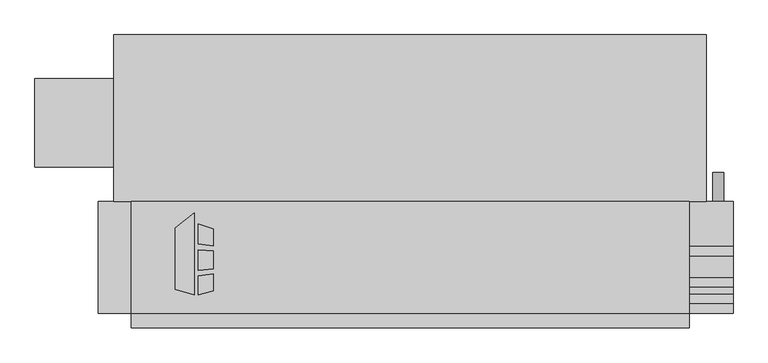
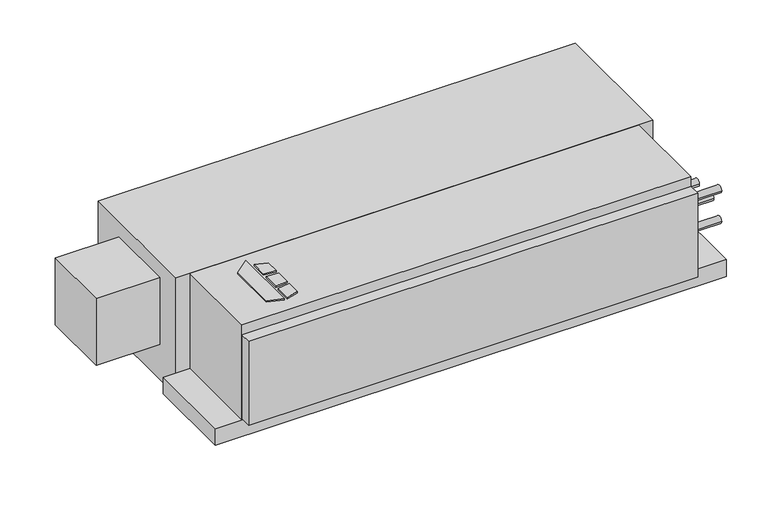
"""IFC4 building model written with IfcOpenShell, lengths in millimetres: proxy geometry, Concealed_Horizontal_Fan_Coil_Unit_With_Plenum_-_CPY_-_IEC_-_4-Pipe_RH_2022 : Size 08 - 277v/60Hz/1Ph - 4/1 Coil."""

from ifc_helpers import new_model, si_unit, point, frame, frame_2d, origin, origin_with_axes, place, context, project, spatial, polyline, circle_curve, trimmed, segment, composite_curve, outline, extrude, source, transform, mapped, element, save


def mechanical_equipment_fb6a3015(model_context):
    return source(origin(), model_context, "Body", "SweptSolid", [
        extrude(outline(polyline([(-254.0, -186.6953476), (-221.4417033, -161.2580184), (-221.4417033, -303.2125), (-254.0, -292.9929201), (-254.0, -186.6953476)])), origin_with_axes(), (0.0, 0.0, 1.0), 3.175),
        extrude(outline(polyline([(-214.6833703, -214.567352), (-214.6833703, -180.0874379), (-188.6019761, -188.2740115), (-188.6019761, -217.7697446), (-214.6833703, -214.567352)])), origin_with_axes(), (0.0, 0.0, 1.0), 3.175),
        extrude(outline(polyline([(-188.6019761, -296.2240115), (-214.6833703, -303.2125), (-214.6833703, -269.9911996), (-188.6019761, -266.4493564), (-188.6019761, -296.2240115)])), origin_with_axes(), (0.0, 0.0, 1.0), 3.175),
        extrude(outline(polyline([(-188.6019761, -226.8513277), (-188.6019761, -258.101483), (-214.6833703, -260.842748), (-214.6833703, -224.9850378), (-188.6019761, -226.8513277)])), origin_with_axes(), (0.0, 0.0, 1.0), 3.175),
        extrude(outline(composite_curve([segment(trimmed(circle_curve(frame_2d((-241.3, 685.8)), 9.525), [point((-241.3, 676.275))], [point((-241.3, 695.325))], False, "CARTESIAN"), True, "CONTINUOUS"), segment(trimmed(circle_curve(frame_2d((-241.3, 685.8)), 9.525), [point((-241.3, 695.325))], [point((-241.3, 676.275))], False, "CARTESIAN"), True, "CONTINUOUS")], self_intersect=False)), frame((0.0, -141.2875, 0.0), z_axis=(0.0, 1.0, 0.0), x_axis=(0.0, 0.0, 1.0)), (0.0, 0.0, 1.0), 50.8),
        extrude(outline(composite_curve([segment(trimmed(circle_curve(frame_2d((-309.5625, -69.85)), 7.9375), [point((-317.5, -69.85))], [point((-301.625, -69.85))], False, "CARTESIAN"), True, "CONTINUOUS"), segment(trimmed(circle_curve(frame_2d((-309.5625, -69.85)), 7.9375), [point((-301.625, -69.85))], [point((-317.5, -69.85))], False, "CARTESIAN"), True, "CONTINUOUS")], self_intersect=False)), frame((635.0, 0.0, 0.0), z_axis=(1.0, 0.0, 0.0), x_axis=(0.0, 1.0, 0.0)), (0.0, 0.0, 1.0), 76.2),
        extrude(outline(composite_curve([segment(trimmed(circle_curve(frame_2d((-309.5625, -139.7)), 7.9375), [point((-317.5, -139.7))], [point((-301.625, -139.7))], False, "CARTESIAN"), True, "CONTINUOUS"), segment(trimmed(circle_curve(frame_2d((-309.5625, -139.7)), 7.9375), [point((-301.625, -139.7))], [point((-317.5, -139.7))], False, "CARTESIAN"), True, "CONTINUOUS")], self_intersect=False)), frame((635.0, 0.0, 0.0), z_axis=(1.0, 0.0, 0.0), x_axis=(0.0, 1.0, 0.0)), (0.0, 0.0, 1.0), 76.2),
        extrude(outline(composite_curve([segment(trimmed(circle_curve(frame_2d((-227.0125, -104.775)), 7.9375), [point((-234.95, -104.775))], [point((-219.075, -104.775))], False, "CARTESIAN"), True, "CONTINUOUS"), segment(trimmed(circle_curve(frame_2d((-227.0125, -104.775)), 7.9375), [point((-219.075, -104.775))], [point((-234.95, -104.775))], False, "CARTESIAN"), True, "CONTINUOUS")], self_intersect=False)), frame((635.0, 0.0, 0.0), z_axis=(1.0, 0.0, 0.0), x_axis=(0.0, 1.0, 0.0)), (0.0, 0.0, 1.0), 76.2),
        extrude(outline(composite_curve([segment(trimmed(circle_curve(frame_2d((-280.9875, -104.775)), 7.9375), [point((-288.925, -104.775))], [point((-273.05, -104.775))], False, "CARTESIAN"), True, "CONTINUOUS"), segment(trimmed(circle_curve(frame_2d((-280.9875, -104.775)), 7.9375), [point((-273.05, -104.775))], [point((-288.925, -104.775))], False, "CARTESIAN"), True, "CONTINUOUS")], self_intersect=False)), frame((635.0, 0.0, 0.0), z_axis=(1.0, 0.0, 0.0), x_axis=(0.0, 1.0, 0.0)), (0.0, 0.0, 1.0), 76.2),
        extrude(outline(polyline([(635.0, -334.9625), (635.0, -360.3625), (-330.2, -360.3625), (-330.2, -334.9625), (635.0, -334.9625)])), frame((0.0, 0.0, -212.725), z_axis=(0.0, 0.0, 1.0), x_axis=(1.0, 0.0, 0.0)), (0.0, 0.0, 1.0), 190.5),
        extrude(outline(polyline([(635.0, -334.9625), (-330.2, -334.9625), (-330.2, -141.2875), (635.0, -141.2875), (635.0, -334.9625)])), frame((0.0, 0.0, -215.9), z_axis=(0.0, 0.0, 1.0), x_axis=(1.0, 0.0, 0.0)), (0.0, 0.0, 1.0), 215.9),
        extrude(outline(polyline([(711.2, -141.2875), (711.2, -334.9625), (-387.35, -334.9625), (-387.35, -141.2875), (711.2, -141.2875)])), frame((0.0, 0.0, -254.0), z_axis=(0.0, 0.0, 1.0), x_axis=(1.0, 0.0, 0.0)), (0.0, 0.0, 1.0), 38.1),
        extrude(outline(polyline([(-496.8875, -80.9625), (-496.8875, 71.4375), (-360.3625, 71.4375), (-360.3625, -80.9625), (-496.8875, -80.9625)])), frame((0.0, 0.0, -187.325), z_axis=(0.0, 0.0, 1.0), x_axis=(1.0, 0.0, 0.0)), (0.0, 0.0, 1.0), 152.4),
        extrude(outline(polyline([(-360.3625, 147.6375), (665.1625, 147.6375), (665.1625, -141.2875), (-360.3625, -141.2875), (-360.3625, 147.6375)])), frame((0.0, 0.0, -266.7), z_axis=(0.0, 0.0, 1.0), x_axis=(1.0, 0.0, 0.0)), (0.0, 0.0, 1.0), 266.7),
    ])


if __name__ == "__main__":
    model = new_model("IFC4")
    model_context = context("Model", 3, world=origin())
    ifc_project = project(units=[si_unit("LENGTHUNIT", "METRE", prefix="MILLI")], contexts=[model_context])
    site = spatial("IfcSite", under=ifc_project)
    building = spatial("IfcBuilding", under=site)
    placement = place(None, origin())
    mechanical_equipment_shape = mechanical_equipment_fb6a3015(model_context)
    element("IfcBuildingElementProxy", 1, Name="Concealed_Horizontal_Fan_Coil_Unit_With_Plenum_-_CPY_-_IEC_-_4-Pipe_RH_2022 : Size 08 - 277v/60Hz/1Ph - 4/1 Coil", ObjectType="Concealed_Horizontal_Fan_Coil_Unit_With_Plenum_-_CPY_-_IEC_-_4-Pipe_RH_2022 : Size 08 - 277v/60Hz/1Ph - 4/1 Coil", at=placement, inside=building, context=model_context, shape_type="MappedRepresentation", body=[
        mapped(mechanical_equipment_shape, transform((0.0, 0.0, 0.0), x_axis=(1.0, 0.0, 0.0), y_axis=(0.0, 1.0, 0.0), z_axis=(0.0, 0.0, 1.0))),
    ])
    save(model, "model.ifc")
